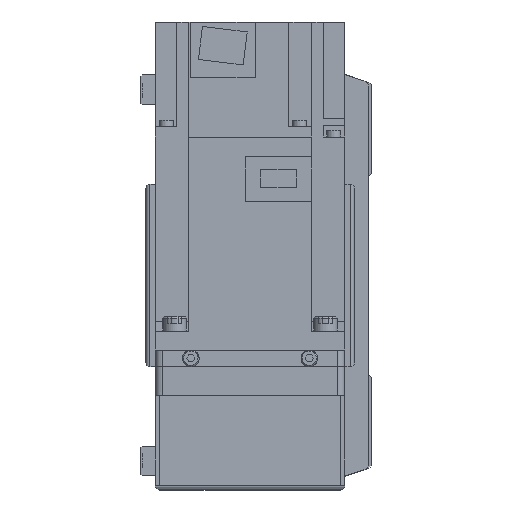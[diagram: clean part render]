
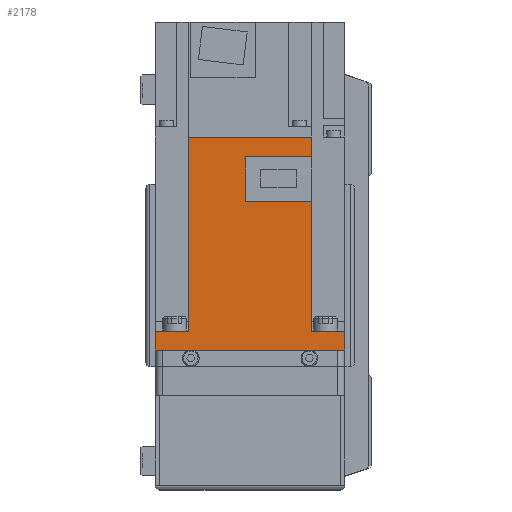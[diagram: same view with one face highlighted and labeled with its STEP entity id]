
A CAD part, left-side view. The second image highlights one B-rep face of the part: STEP entity #2178.
In plain terms, the highlighted planar face has unit normal (-1, 0, 0) as drawn and (1, 0, 0) by its records, which use the part's own axes.
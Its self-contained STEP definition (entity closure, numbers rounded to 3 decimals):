
#2178 = ADVANCED_FACE( '', ( #4907 ), #4908, .F. );
#4907 = FACE_OUTER_BOUND( '', #8277, .T. );
#4908 = PLANE( '', #8278 );
#8277 = EDGE_LOOP( '', ( #14287, #14288, #14289, #14290, #14291, #14292, #14293, #14294, #14295, #14296, #14297, #14298 ) );
#8278 = AXIS2_PLACEMENT_3D( '', #14299, #14300, #14301 );
#14287 = ORIENTED_EDGE( '', *, *, #19251, .F. );
#14288 = ORIENTED_EDGE( '', *, *, #21392, .F. );
#14289 = ORIENTED_EDGE( '', *, *, #20242, .F. );
#14290 = ORIENTED_EDGE( '', *, *, #20110, .T. );
#14291 = ORIENTED_EDGE( '', *, *, #21393, .F. );
#14292 = ORIENTED_EDGE( '', *, *, #20949, .T. );
#14293 = ORIENTED_EDGE( '', *, *, #21394, .T. );
#14294 = ORIENTED_EDGE( '', *, *, #19682, .F. );
#14295 = ORIENTED_EDGE( '', *, *, #19134, .F. );
#14296 = ORIENTED_EDGE( '', *, *, #21395, .F. );
#14297 = ORIENTED_EDGE( '', *, *, #21396, .F. );
#14298 = ORIENTED_EDGE( '', *, *, #20214, .F. );
#14299 = CARTESIAN_POINT( '', ( 40., 89.8, 40. ) );
#14300 = DIRECTION( '', ( -1., 0., 0. ) );
#14301 = DIRECTION( '', ( 0., 0., 1. ) );
#19134 = EDGE_CURVE( '', #22671, #22672, #22673, .T. );
#19251 = EDGE_CURVE( '', #22881, #22883, #22884, .T. );
#19682 = EDGE_CURVE( '', #22672, #23641, #23642, .T. );
#20110 = EDGE_CURVE( '', #24366, #24364, #24367, .T. );
#20214 = EDGE_CURVE( '', #22883, #24540, #24541, .T. );
#20242 = EDGE_CURVE( '', #24366, #24584, #24587, .T. );
#20949 = EDGE_CURVE( '', #25688, #25686, #25689, .T. );
#21392 = EDGE_CURVE( '', #24584, #22881, #26341, .T. );
#21393 = EDGE_CURVE( '', #25688, #24364, #26342, .T. );
#21394 = EDGE_CURVE( '', #25686, #23641, #26343, .T. );
#21395 = EDGE_CURVE( '', #23244, #22671, #26344, .T. );
#21396 = EDGE_CURVE( '', #24540, #23244, #26345, .T. );
#22671 = VERTEX_POINT( '', #27937 );
#22672 = VERTEX_POINT( '', #27938 );
#22673 = LINE( '', #27939, #27940 );
#22881 = VERTEX_POINT( '', #28297 );
#22883 = VERTEX_POINT( '', #28300 );
#22884 = LINE( '', #28301, #28302 );
#23244 = VERTEX_POINT( '', #28781 );
#23641 = VERTEX_POINT( '', #29315 );
#23642 = LINE( '', #29316, #29317 );
#24364 = VERTEX_POINT( '', #30374 );
#24366 = VERTEX_POINT( '', #30377 );
#24367 = LINE( '', #30378, #30379 );
#24540 = VERTEX_POINT( '', #30622 );
#24541 = LINE( '', #30623, #30624 );
#24584 = VERTEX_POINT( '', #30675 );
#24587 = LINE( '', #30680, #30681 );
#25686 = VERTEX_POINT( '', #32241 );
#25688 = VERTEX_POINT( '', #32244 );
#25689 = LINE( '', #32245, #32246 );
#26341 = LINE( '', #33333, #33334 );
#26342 = LINE( '', #33335, #33336 );
#26343 = LINE( '', #33337, #33338 );
#26344 = LINE( '', #33339, #33340 );
#26345 = LINE( '', #33341, #33342 );
#27937 = CARTESIAN_POINT( '', ( 40., 8., -25.95 ) );
#27938 = CARTESIAN_POINT( '', ( 40., 8., -40. ) );
#27939 = CARTESIAN_POINT( '', ( 40., 8., 40. ) );
#27940 = VECTOR( '', #35775, 1000. );
#28297 = CARTESIAN_POINT( '', ( 40., 81.4, -25.95 ) );
#28300 = CARTESIAN_POINT( '', ( 40., 81.4, 1.8 ) );
#28301 = CARTESIAN_POINT( '', ( 40., 81.4, -26. ) );
#28302 = VECTOR( '', #35920, 1000. );
#28781 = CARTESIAN_POINT( '', ( 40., 62.8, -25.95 ) );
#29315 = CARTESIAN_POINT( '', ( 40., 0., -40. ) );
#29316 = CARTESIAN_POINT( '', ( 40., 89.8, -40. ) );
#29317 = VECTOR( '', #36475, 1000. );
#30374 = CARTESIAN_POINT( '', ( 40., 8., 25.95 ) );
#30377 = CARTESIAN_POINT( '', ( 40., 89.8, 25.95 ) );
#30378 = CARTESIAN_POINT( '', ( 40., 158., 25.95 ) );
#30379 = VECTOR( '', #37041, 1000. );
#30622 = CARTESIAN_POINT( '', ( 40., 62.8, 1.8 ) );
#30623 = CARTESIAN_POINT( '', ( 40., 81.4, 1.8 ) );
#30624 = VECTOR( '', #37188, 1000. );
#30675 = CARTESIAN_POINT( '', ( 40., 89.8, -25.95 ) );
#30680 = CARTESIAN_POINT( '', ( 40., 89.8, 40. ) );
#30681 = VECTOR( '', #37229, 1000. );
#32241 = CARTESIAN_POINT( '', ( 40., 0., 40. ) );
#32244 = CARTESIAN_POINT( '', ( 40., 8., 40. ) );
#32245 = CARTESIAN_POINT( '', ( 40., 89.8, 40. ) );
#32246 = VECTOR( '', #38073, 1000. );
#33333 = CARTESIAN_POINT( '', ( 40., 158., -25.95 ) );
#33334 = VECTOR( '', #38549, 1000. );
#33335 = CARTESIAN_POINT( '', ( 40., 8., 40. ) );
#33336 = VECTOR( '', #38550, 1000. );
#33337 = CARTESIAN_POINT( '', ( 40., 0., 40. ) );
#33338 = VECTOR( '', #38551, 1000. );
#33339 = CARTESIAN_POINT( '', ( 40., 158., -25.95 ) );
#33340 = VECTOR( '', #38552, 1000. );
#33341 = CARTESIAN_POINT( '', ( 40., 62.8, 1.8 ) );
#33342 = VECTOR( '', #38553, 1000. );
#35775 = DIRECTION( '', ( 0., 0., -1. ) );
#35920 = DIRECTION( '', ( 0., 0., 1. ) );
#36475 = DIRECTION( '', ( 0., -1., 0. ) );
#37041 = DIRECTION( '', ( 0., -1., 0. ) );
#37188 = DIRECTION( '', ( 0., -1., 0. ) );
#37229 = DIRECTION( '', ( 0., 0., -1. ) );
#38073 = DIRECTION( '', ( 0., -1., 0. ) );
#38549 = DIRECTION( '', ( 0., -1., 0. ) );
#38550 = DIRECTION( '', ( 0., 0., -1. ) );
#38551 = DIRECTION( '', ( 0., 0., -1. ) );
#38552 = DIRECTION( '', ( 0., -1., 0. ) );
#38553 = DIRECTION( '', ( 0., 0., -1. ) );
